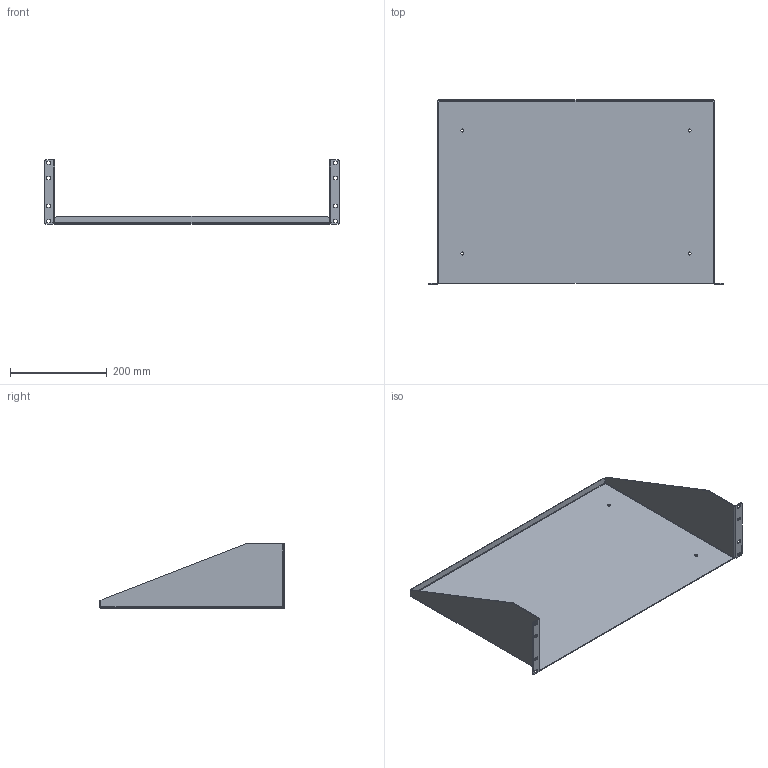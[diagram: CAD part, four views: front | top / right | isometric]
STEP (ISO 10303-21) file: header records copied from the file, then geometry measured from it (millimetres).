
FILE_DESCRIPTION( ( 'Unknown' ), '1' );
FILE_NAME( 'Q:/ACCESSORIES/SHELVES/RK _ RMA/WEB DRAWINGS/STEP/RASU240515.stp', 'Unknown', ( 'Unknown' ), ( 'Unknown' ), 'PSStep 10.1', 'Unknown', ' ' );
FILE_SCHEMA( ( 'AUTOMOTIVE_DESIGN { 1 0 10303 214 1 1 1 1 }' ) );
Length unit declared in the file: millimetre
Products named in the file (1): 1
Bounding box: 609.75 x 381 x 132.54 mm (x, y, z)
Volume: 534595.6 mm3; surface area: 589466 mm2
Topology: 1 solids, 1 shells, 100 faces, 274 edges, 176 vertices
Faces by surface type: plane 56, cylinder 40, bspline 4
Full cylindrical faces by diameter (mm): 6.35 x4
Entity records: 3445 total; most frequent: CARTESIAN_POINT 843, ORIENTED_EDGE 540, DIRECTION 524, EDGE_CURVE 270, AXIS2_PLACEMENT_3D 177, VERTEX_POINT 176, LINE 170, VECTOR 170
